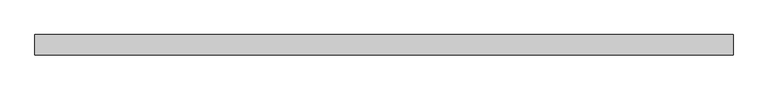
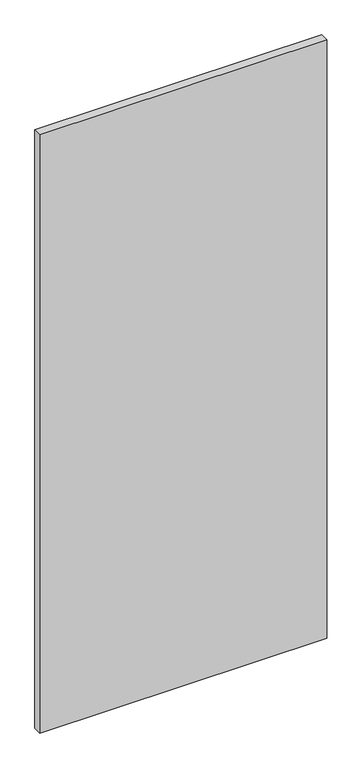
"""IFC4 building model written with IfcOpenShell, lengths in millimetres: plate geometry, Vitré."""

from ifc_helpers import new_model, si_unit, origin, origin_with_axes, place, context, project, spatial, polyline, outline, extrude, source, transform, mapped, element, save


def plate_6c0ebdc1(model_context):
    return source(origin(), model_context, "Body", "SweptSolid", [
        extrude(outline(polyline([(-691.3125, -20.0), (-691.3125, 20.0), (691.3125, 20.0), (691.3125, -20.0), (-691.3125, -20.0)])), origin_with_axes(), (0.0, 0.0, 1.0), 3047.625),
    ])


if __name__ == "__main__":
    model = new_model("IFC4")
    model_context = context("Model", 3, world=origin())
    ifc_project = project(units=[si_unit("LENGTHUNIT", "METRE", prefix="MILLI")], contexts=[model_context])
    site = spatial("IfcSite", under=ifc_project)
    building = spatial("IfcBuilding", under=site)
    placement = place(None, origin())
    plate_shape = plate_6c0ebdc1(model_context)
    element("IfcPlate", 1, ObjectType="Vitré", at=placement, inside=building, context=model_context, shape_type="MappedRepresentation", body=[
        mapped(plate_shape, transform((0.0, 0.0, 0.0), x_axis=(1.0, 0.0, 0.0), y_axis=(0.0, 1.0, 0.0), z_axis=(0.0, 0.0, 1.0))),
    ])
    save(model, "model.ifc")
